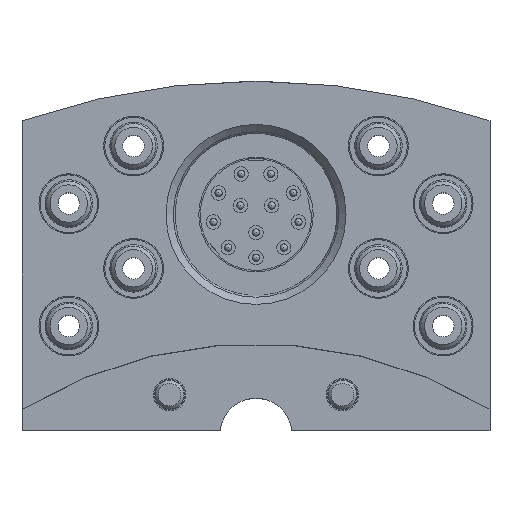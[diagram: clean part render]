
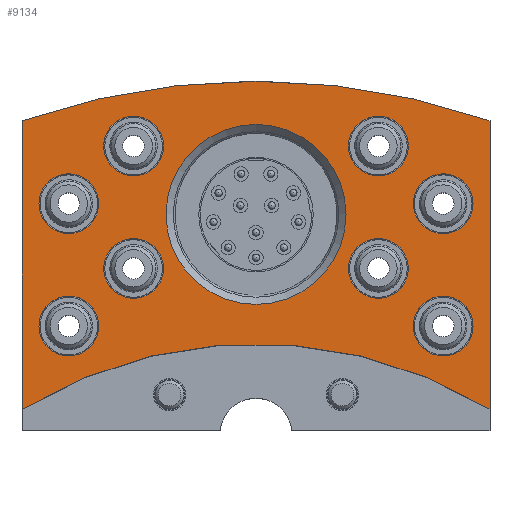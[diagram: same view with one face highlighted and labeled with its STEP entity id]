
A CAD part, top view. The second image highlights one B-rep face of the part: STEP entity #9134.
In plain terms, the highlighted planar face has unit normal (0, 0, 1).
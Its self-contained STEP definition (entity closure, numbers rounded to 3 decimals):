
#134=FACE_BOUND('',#1228,.T.);
#135=FACE_BOUND('',#1229,.T.);
#136=FACE_BOUND('',#1230,.T.);
#137=FACE_BOUND('',#1231,.T.);
#138=FACE_BOUND('',#1232,.T.);
#139=FACE_BOUND('',#1233,.T.);
#140=FACE_BOUND('',#1234,.T.);
#141=FACE_BOUND('',#1235,.T.);
#142=FACE_BOUND('',#1236,.T.);
#279=PLANE('',#9734);
#702=FACE_OUTER_BOUND('',#1227,.T.);
#1227=EDGE_LOOP('',(#6000,#6001,#6002,#6003));
#1228=EDGE_LOOP('',(#6004,#6005));
#1229=EDGE_LOOP('',(#6006,#6007));
#1230=EDGE_LOOP('',(#6008,#6009));
#1231=EDGE_LOOP('',(#6010,#6011));
#1232=EDGE_LOOP('',(#6012,#6013));
#1233=EDGE_LOOP('',(#6014,#6015));
#1234=EDGE_LOOP('',(#6016,#6017));
#1235=EDGE_LOOP('',(#6018,#6019));
#1236=EDGE_LOOP('',(#6020));
#1879=LINE('',#14224,#2361);
#1880=LINE('',#14227,#2362);
#2361=VECTOR('',#11114,10.);
#2362=VECTOR('',#11117,10.);
#2874=CIRCLE('',#9730,12.5);
#2877=CIRCLE('',#9735,62.55);
#2878=CIRCLE('',#9736,99.);
#2879=CIRCLE('',#9737,4.15);
#2880=CIRCLE('',#9738,4.15);
#2881=CIRCLE('',#9739,4.15);
#2882=CIRCLE('',#9740,4.15);
#2883=CIRCLE('',#9741,4.15);
#2884=CIRCLE('',#9742,4.15);
#2885=CIRCLE('',#9743,4.15);
#2886=CIRCLE('',#9744,4.15);
#2887=CIRCLE('',#9745,4.15);
#2888=CIRCLE('',#9746,4.15);
#2889=CIRCLE('',#9747,4.15);
#2890=CIRCLE('',#9748,4.15);
#2891=CIRCLE('',#9749,4.15);
#2892=CIRCLE('',#9750,4.15);
#2893=CIRCLE('',#9751,4.15);
#2894=CIRCLE('',#9752,4.15);
#3671=VERTEX_POINT('',#14210);
#3674=VERTEX_POINT('',#14220);
#3675=VERTEX_POINT('',#14221);
#3676=VERTEX_POINT('',#14223);
#3677=VERTEX_POINT('',#14225);
#3678=VERTEX_POINT('',#14228);
#3679=VERTEX_POINT('',#14229);
#3680=VERTEX_POINT('',#14232);
#3681=VERTEX_POINT('',#14233);
#3682=VERTEX_POINT('',#14236);
#3683=VERTEX_POINT('',#14237);
#3684=VERTEX_POINT('',#14240);
#3685=VERTEX_POINT('',#14241);
#3686=VERTEX_POINT('',#14244);
#3687=VERTEX_POINT('',#14245);
#3688=VERTEX_POINT('',#14248);
#3689=VERTEX_POINT('',#14249);
#3690=VERTEX_POINT('',#14252);
#3691=VERTEX_POINT('',#14253);
#3692=VERTEX_POINT('',#14256);
#3693=VERTEX_POINT('',#14257);
#4638=EDGE_CURVE('',#3671,#3671,#2874,.T.);
#4643=EDGE_CURVE('',#3674,#3675,#2877,.T.);
#4644=EDGE_CURVE('',#3675,#3676,#1879,.T.);
#4645=EDGE_CURVE('',#3676,#3677,#2878,.T.);
#4646=EDGE_CURVE('',#3677,#3674,#1880,.T.);
#4647=EDGE_CURVE('',#3678,#3679,#2879,.T.);
#4648=EDGE_CURVE('',#3679,#3678,#2880,.T.);
#4649=EDGE_CURVE('',#3680,#3681,#2881,.T.);
#4650=EDGE_CURVE('',#3681,#3680,#2882,.T.);
#4651=EDGE_CURVE('',#3682,#3683,#2883,.T.);
#4652=EDGE_CURVE('',#3683,#3682,#2884,.T.);
#4653=EDGE_CURVE('',#3684,#3685,#2885,.T.);
#4654=EDGE_CURVE('',#3685,#3684,#2886,.T.);
#4655=EDGE_CURVE('',#3686,#3687,#2887,.T.);
#4656=EDGE_CURVE('',#3687,#3686,#2888,.T.);
#4657=EDGE_CURVE('',#3688,#3689,#2889,.T.);
#4658=EDGE_CURVE('',#3689,#3688,#2890,.T.);
#4659=EDGE_CURVE('',#3690,#3691,#2891,.T.);
#4660=EDGE_CURVE('',#3691,#3690,#2892,.T.);
#4661=EDGE_CURVE('',#3692,#3693,#2893,.T.);
#4662=EDGE_CURVE('',#3693,#3692,#2894,.T.);
#6000=ORIENTED_EDGE('',*,*,#4643,.T.);
#6001=ORIENTED_EDGE('',*,*,#4644,.T.);
#6002=ORIENTED_EDGE('',*,*,#4645,.T.);
#6003=ORIENTED_EDGE('',*,*,#4646,.T.);
#6004=ORIENTED_EDGE('',*,*,#4647,.T.);
#6005=ORIENTED_EDGE('',*,*,#4648,.T.);
#6006=ORIENTED_EDGE('',*,*,#4649,.T.);
#6007=ORIENTED_EDGE('',*,*,#4650,.T.);
#6008=ORIENTED_EDGE('',*,*,#4651,.T.);
#6009=ORIENTED_EDGE('',*,*,#4652,.T.);
#6010=ORIENTED_EDGE('',*,*,#4653,.T.);
#6011=ORIENTED_EDGE('',*,*,#4654,.T.);
#6012=ORIENTED_EDGE('',*,*,#4655,.T.);
#6013=ORIENTED_EDGE('',*,*,#4656,.T.);
#6014=ORIENTED_EDGE('',*,*,#4657,.T.);
#6015=ORIENTED_EDGE('',*,*,#4658,.T.);
#6016=ORIENTED_EDGE('',*,*,#4659,.T.);
#6017=ORIENTED_EDGE('',*,*,#4660,.T.);
#6018=ORIENTED_EDGE('',*,*,#4661,.T.);
#6019=ORIENTED_EDGE('',*,*,#4662,.T.);
#6020=ORIENTED_EDGE('',*,*,#4638,.F.);
#9134=ADVANCED_FACE('',(#702,#134,#135,#136,#137,#138,#139,#140,#141,#142),
#279,.T.);
#9730=AXIS2_PLACEMENT_3D('',#14211,#11100,#11101);
#9734=AXIS2_PLACEMENT_3D('',#14219,#11110,#11111);
#9735=AXIS2_PLACEMENT_3D('',#14222,#11112,#11113);
#9736=AXIS2_PLACEMENT_3D('',#14226,#11115,#11116);
#9737=AXIS2_PLACEMENT_3D('',#14230,#11118,#11119);
#9738=AXIS2_PLACEMENT_3D('',#14231,#11120,#11121);
#9739=AXIS2_PLACEMENT_3D('',#14234,#11122,#11123);
#9740=AXIS2_PLACEMENT_3D('',#14235,#11124,#11125);
#9741=AXIS2_PLACEMENT_3D('',#14238,#11126,#11127);
#9742=AXIS2_PLACEMENT_3D('',#14239,#11128,#11129);
#9743=AXIS2_PLACEMENT_3D('',#14242,#11130,#11131);
#9744=AXIS2_PLACEMENT_3D('',#14243,#11132,#11133);
#9745=AXIS2_PLACEMENT_3D('',#14246,#11134,#11135);
#9746=AXIS2_PLACEMENT_3D('',#14247,#11136,#11137);
#9747=AXIS2_PLACEMENT_3D('',#14250,#11138,#11139);
#9748=AXIS2_PLACEMENT_3D('',#14251,#11140,#11141);
#9749=AXIS2_PLACEMENT_3D('',#14254,#11142,#11143);
#9750=AXIS2_PLACEMENT_3D('',#14255,#11144,#11145);
#9751=AXIS2_PLACEMENT_3D('',#14258,#11146,#11147);
#9752=AXIS2_PLACEMENT_3D('',#14259,#11148,#11149);
#11100=DIRECTION('center_axis',(0.,0.,1.));
#11101=DIRECTION('ref_axis',(-1.,0.,0.));
#11110=DIRECTION('center_axis',(0.,0.,1.));
#11111=DIRECTION('ref_axis',(1.,0.,0.));
#11112=DIRECTION('center_axis',(0.,0.,-1.));
#11113=DIRECTION('ref_axis',(-1.,0.,0.));
#11114=DIRECTION('',(0.,1.,0.));
#11115=DIRECTION('center_axis',(0.,0.,1.));
#11116=DIRECTION('ref_axis',(0.328,0.945,0.));
#11117=DIRECTION('',(0.,-1.,0.));
#11118=DIRECTION('center_axis',(0.,0.,-1.));
#11119=DIRECTION('ref_axis',(1.,0.,0.));
#11120=DIRECTION('center_axis',(0.,0.,-1.));
#11121=DIRECTION('ref_axis',(1.,0.,0.));
#11122=DIRECTION('center_axis',(0.,0.,-1.));
#11123=DIRECTION('ref_axis',(1.,0.,0.));
#11124=DIRECTION('center_axis',(0.,0.,-1.));
#11125=DIRECTION('ref_axis',(1.,0.,0.));
#11126=DIRECTION('center_axis',(0.,0.,-1.));
#11127=DIRECTION('ref_axis',(1.,0.,0.));
#11128=DIRECTION('center_axis',(0.,0.,-1.));
#11129=DIRECTION('ref_axis',(1.,0.,0.));
#11130=DIRECTION('center_axis',(0.,0.,-1.));
#11131=DIRECTION('ref_axis',(1.,0.,0.));
#11132=DIRECTION('center_axis',(0.,0.,-1.));
#11133=DIRECTION('ref_axis',(1.,0.,0.));
#11134=DIRECTION('center_axis',(0.,0.,-1.));
#11135=DIRECTION('ref_axis',(1.,0.,0.));
#11136=DIRECTION('center_axis',(0.,0.,-1.));
#11137=DIRECTION('ref_axis',(1.,0.,0.));
#11138=DIRECTION('center_axis',(0.,0.,-1.));
#11139=DIRECTION('ref_axis',(1.,0.,0.));
#11140=DIRECTION('center_axis',(0.,0.,-1.));
#11141=DIRECTION('ref_axis',(1.,0.,0.));
#11142=DIRECTION('center_axis',(0.,0.,-1.));
#11143=DIRECTION('ref_axis',(1.,0.,0.));
#11144=DIRECTION('center_axis',(0.,0.,-1.));
#11145=DIRECTION('ref_axis',(1.,0.,0.));
#11146=DIRECTION('center_axis',(0.,0.,-1.));
#11147=DIRECTION('ref_axis',(1.,0.,0.));
#11148=DIRECTION('center_axis',(0.,0.,-1.));
#11149=DIRECTION('ref_axis',(1.,0.,0.));
#14210=CARTESIAN_POINT('',(12.5,80.5,0.));
#14211=CARTESIAN_POINT('Origin',(0.,80.5,0.));
#14219=CARTESIAN_POINT('Origin',(0.,72.817,
0.));
#14220=CARTESIAN_POINT('',(-32.5,53.444,0.));
#14221=CARTESIAN_POINT('',(32.5,53.444,0.));
#14222=CARTESIAN_POINT('Origin',(0.,0.,0.));
#14223=CARTESIAN_POINT('',(32.5,93.513,0.));
#14224=CARTESIAN_POINT('',(32.5,50.5,0.));
#14225=CARTESIAN_POINT('',(-32.5,93.513,0.));
#14226=CARTESIAN_POINT('Origin',(0.,0.,0.));
#14227=CARTESIAN_POINT('',(-32.5,93.513,0.));
#14228=CARTESIAN_POINT('',(-21.85,82.,0.));
#14229=CARTESIAN_POINT('',(-30.15,82.,0.));
#14230=CARTESIAN_POINT('Origin',(-26.,82.,0.));
#14231=CARTESIAN_POINT('Origin',(-26.,82.,0.));
#14232=CARTESIAN_POINT('',(-21.85,65.,0.));
#14233=CARTESIAN_POINT('',(-30.15,65.,0.));
#14234=CARTESIAN_POINT('Origin',(-26.,65.,0.));
#14235=CARTESIAN_POINT('Origin',(-26.,65.,0.));
#14236=CARTESIAN_POINT('',(-12.85,73.,0.));
#14237=CARTESIAN_POINT('',(-21.15,73.,0.));
#14238=CARTESIAN_POINT('Origin',(-17.,73.,0.));
#14239=CARTESIAN_POINT('Origin',(-17.,73.,0.));
#14240=CARTESIAN_POINT('',(-12.85,90.,0.));
#14241=CARTESIAN_POINT('',(-21.15,90.,0.));
#14242=CARTESIAN_POINT('Origin',(-17.,90.,0.));
#14243=CARTESIAN_POINT('Origin',(-17.,90.,0.));
#14244=CARTESIAN_POINT('',(21.15,90.,0.));
#14245=CARTESIAN_POINT('',(12.85,90.,0.));
#14246=CARTESIAN_POINT('Origin',(17.,90.,0.));
#14247=CARTESIAN_POINT('Origin',(17.,90.,0.));
#14248=CARTESIAN_POINT('',(21.15,73.,0.));
#14249=CARTESIAN_POINT('',(12.85,73.,0.));
#14250=CARTESIAN_POINT('Origin',(17.,73.,0.));
#14251=CARTESIAN_POINT('Origin',(17.,73.,0.));
#14252=CARTESIAN_POINT('',(30.15,65.,0.));
#14253=CARTESIAN_POINT('',(21.85,65.,0.));
#14254=CARTESIAN_POINT('Origin',(26.,65.,0.));
#14255=CARTESIAN_POINT('Origin',(26.,65.,0.));
#14256=CARTESIAN_POINT('',(30.15,82.,0.));
#14257=CARTESIAN_POINT('',(21.85,82.,0.));
#14258=CARTESIAN_POINT('Origin',(26.,82.,0.));
#14259=CARTESIAN_POINT('Origin',(26.,82.,0.));
